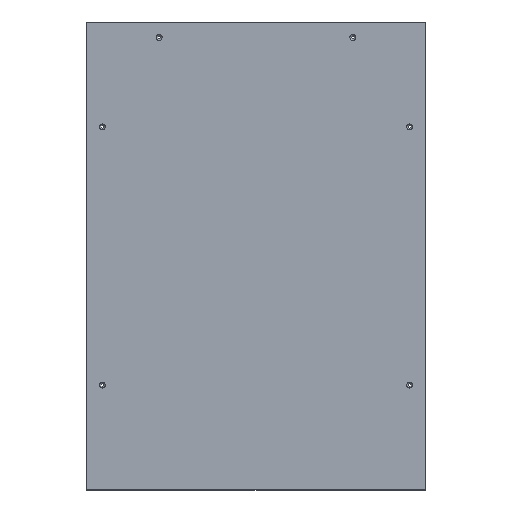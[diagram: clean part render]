
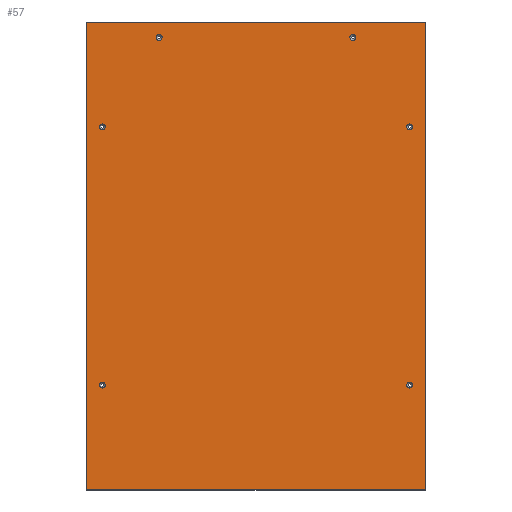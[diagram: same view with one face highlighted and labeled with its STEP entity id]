
A CAD part, top view. The second image highlights one B-rep face of the part: STEP entity #57.
In plain terms, the highlighted planar face has unit normal (0, 0, 1).
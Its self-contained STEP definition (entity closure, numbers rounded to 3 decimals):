
#7 = EDGE_CURVE ( 'NONE', #498, #498, #250, .T. ) ;
#14 = ORIENTED_EDGE ( 'NONE', *, *, #376, .T. ) ;
#16 = CARTESIAN_POINT ( 'NONE',  ( -238., -200., 2. ) ) ;
#32 = CARTESIAN_POINT ( 'NONE',  ( 238., 200., 2. ) ) ;
#36 = AXIS2_PLACEMENT_3D ( 'NONE', #32, #205, #373 ) ;
#41 = PLANE ( 'NONE',  #490 ) ;
#42 = CARTESIAN_POINT ( 'NONE',  ( -154.5, 338.5, 2. ) ) ;
#47 = CIRCLE ( 'NONE', #215, 4.5 ) ;
#48 = AXIS2_PLACEMENT_3D ( 'NONE', #198, #412, #487 ) ;
#57 = ADVANCED_FACE ( 'NONE', ( #336, #467, #92, #122, #86, #259, #424 ), #41, .F. ) ;
#66 = DIRECTION ( 'NONE',  ( 1., 0., 0. ) ) ;
#77 = VECTOR ( 'NONE', #545, 1000. ) ;
#83 = CARTESIAN_POINT ( 'NONE',  ( 0., 0., 2. ) ) ;
#86 = FACE_BOUND ( 'NONE', #227, .T. ) ;
#92 = FACE_BOUND ( 'NONE', #544, .T. ) ;
#95 = DIRECTION ( 'NONE',  ( 0., 0., -1. ) ) ;
#96 = ORIENTED_EDGE ( 'NONE', *, *, #414, .T. ) ;
#101 = AXIS2_PLACEMENT_3D ( 'NONE', #135, #133, #141 ) ;
#106 = LINE ( 'NONE', #450, #435 ) ;
#108 = DIRECTION ( 'NONE',  ( 0., 1., 0. ) ) ;
#113 = VERTEX_POINT ( 'NONE', #332 ) ;
#120 = CARTESIAN_POINT ( 'NONE',  ( 145.5, 338.5, 2. ) ) ;
#122 = FACE_BOUND ( 'NONE', #237, .T. ) ;
#129 = DIRECTION ( 'NONE',  ( 0., 0., -1. ) ) ;
#132 = EDGE_CURVE ( 'NONE', #331, #331, #529, .T. ) ;
#133 = DIRECTION ( 'NONE',  ( 0., 0., -1. ) ) ;
#135 = CARTESIAN_POINT ( 'NONE',  ( 238., -200., 2. ) ) ;
#138 = CARTESIAN_POINT ( 'NONE',  ( 150., 338.5, 2. ) ) ;
#141 = DIRECTION ( 'NONE',  ( -1., 0., 0. ) ) ;
#147 = CARTESIAN_POINT ( 'NONE',  ( -150., 338.5, 2. ) ) ;
#152 = VECTOR ( 'NONE', #108, 1000. ) ;
#154 = VERTEX_POINT ( 'NONE', #523 ) ;
#157 = LINE ( 'NONE', #278, #538 ) ;
#187 = CARTESIAN_POINT ( 'NONE',  ( 262., 362.5, 2. ) ) ;
#198 = CARTESIAN_POINT ( 'NONE',  ( -238., 200., 2. ) ) ;
#205 = DIRECTION ( 'NONE',  ( 0., 0., -1. ) ) ;
#215 = AXIS2_PLACEMENT_3D ( 'NONE', #16, #95, #355 ) ;
#216 = CARTESIAN_POINT ( 'NONE',  ( 233.5, -200., 2. ) ) ;
#224 = AXIS2_PLACEMENT_3D ( 'NONE', #138, #229, #438 ) ;
#227 = EDGE_LOOP ( 'NONE', ( #96 ) ) ;
#229 = DIRECTION ( 'NONE',  ( 0., 0., -1. ) ) ;
#232 = EDGE_LOOP ( 'NONE', ( #535, #484, #14, #407 ) ) ;
#233 = DIRECTION ( 'NONE',  ( 0., 0., -1. ) ) ;
#234 = ORIENTED_EDGE ( 'NONE', *, *, #359, .T. ) ;
#237 = EDGE_LOOP ( 'NONE', ( #495 ) ) ;
#245 = ORIENTED_EDGE ( 'NONE', *, *, #269, .T. ) ;
#248 = VERTEX_POINT ( 'NONE', #383 ) ;
#250 = CIRCLE ( 'NONE', #36, 4.5 ) ;
#253 = VERTEX_POINT ( 'NONE', #42 ) ;
#259 = FACE_BOUND ( 'NONE', #265, .T. ) ;
#265 = EDGE_LOOP ( 'NONE', ( #245 ) ) ;
#269 = EDGE_CURVE ( 'NONE', #248, #248, #47, .T. ) ;
#278 = CARTESIAN_POINT ( 'NONE',  ( -262., -362.5, 2. ) ) ;
#283 = CARTESIAN_POINT ( 'NONE',  ( -262., -362.5, 2. ) ) ;
#291 = CIRCLE ( 'NONE', #517, 4.5 ) ;
#292 = CARTESIAN_POINT ( 'NONE',  ( -242.5, 200., 2. ) ) ;
#314 = VERTEX_POINT ( 'NONE', #187 ) ;
#319 = LINE ( 'NONE', #370, #152 ) ;
#321 = DIRECTION ( 'NONE',  ( -1., 0., 0. ) ) ;
#328 = EDGE_LOOP ( 'NONE', ( #413 ) ) ;
#331 = VERTEX_POINT ( 'NONE', #216 ) ;
#332 = CARTESIAN_POINT ( 'NONE',  ( 262., -362.5, 2. ) ) ;
#336 = FACE_BOUND ( 'NONE', #344, .T. ) ;
#344 = EDGE_LOOP ( 'NONE', ( #431 ) ) ;
#355 = DIRECTION ( 'NONE',  ( -1., 0., 0. ) ) ;
#359 = EDGE_CURVE ( 'NONE', #557, #557, #390, .T. ) ;
#360 = DIRECTION ( 'NONE',  ( 0., -1., 0. ) ) ;
#369 = EDGE_CURVE ( 'NONE', #500, #113, #157, .T. ) ;
#370 = CARTESIAN_POINT ( 'NONE',  ( 262., -362.5, 2. ) ) ;
#372 = LINE ( 'NONE', #454, #77 ) ;
#373 = DIRECTION ( 'NONE',  ( -1., 0., 0. ) ) ;
#376 = EDGE_CURVE ( 'NONE', #154, #500, #106, .T. ) ;
#383 = CARTESIAN_POINT ( 'NONE',  ( -242.5, -200., 2. ) ) ;
#390 = CIRCLE ( 'NONE', #224, 4.5 ) ;
#407 = ORIENTED_EDGE ( 'NONE', *, *, #369, .T. ) ;
#412 = DIRECTION ( 'NONE',  ( 0., 0., -1. ) ) ;
#413 = ORIENTED_EDGE ( 'NONE', *, *, #7, .T. ) ;
#414 = EDGE_CURVE ( 'NONE', #421, #421, #481, .T. ) ;
#421 = VERTEX_POINT ( 'NONE', #292 ) ;
#424 = FACE_OUTER_BOUND ( 'NONE', #232, .T. ) ;
#429 = EDGE_CURVE ( 'NONE', #253, #253, #291, .T. ) ;
#431 = ORIENTED_EDGE ( 'NONE', *, *, #132, .T. ) ;
#435 = VECTOR ( 'NONE', #360, 1000. ) ;
#438 = DIRECTION ( 'NONE',  ( -1., 0., 0. ) ) ;
#447 = EDGE_CURVE ( 'NONE', #314, #154, #372, .T. ) ;
#450 = CARTESIAN_POINT ( 'NONE',  ( -262., -362.5, 2. ) ) ;
#454 = CARTESIAN_POINT ( 'NONE',  ( -262., 362.5, 2. ) ) ;
#463 = EDGE_CURVE ( 'NONE', #113, #314, #319, .T. ) ;
#467 = FACE_BOUND ( 'NONE', #328, .T. ) ;
#481 = CIRCLE ( 'NONE', #48, 4.5 ) ;
#484 = ORIENTED_EDGE ( 'NONE', *, *, #447, .T. ) ;
#487 = DIRECTION ( 'NONE',  ( -1., 0., 0. ) ) ;
#490 = AXIS2_PLACEMENT_3D ( 'NONE', #83, #129, #506 ) ;
#495 = ORIENTED_EDGE ( 'NONE', *, *, #429, .T. ) ;
#498 = VERTEX_POINT ( 'NONE', #554 ) ;
#500 = VERTEX_POINT ( 'NONE', #283 ) ;
#506 = DIRECTION ( 'NONE',  ( -1., 0., 0. ) ) ;
#517 = AXIS2_PLACEMENT_3D ( 'NONE', #147, #233, #321 ) ;
#523 = CARTESIAN_POINT ( 'NONE',  ( -262., 362.5, 2. ) ) ;
#529 = CIRCLE ( 'NONE', #101, 4.5 ) ;
#535 = ORIENTED_EDGE ( 'NONE', *, *, #463, .T. ) ;
#538 = VECTOR ( 'NONE', #66, 1000. ) ;
#544 = EDGE_LOOP ( 'NONE', ( #234 ) ) ;
#545 = DIRECTION ( 'NONE',  ( -1., 0., 0. ) ) ;
#554 = CARTESIAN_POINT ( 'NONE',  ( 233.5, 200., 2. ) ) ;
#557 = VERTEX_POINT ( 'NONE', #120 ) ;
